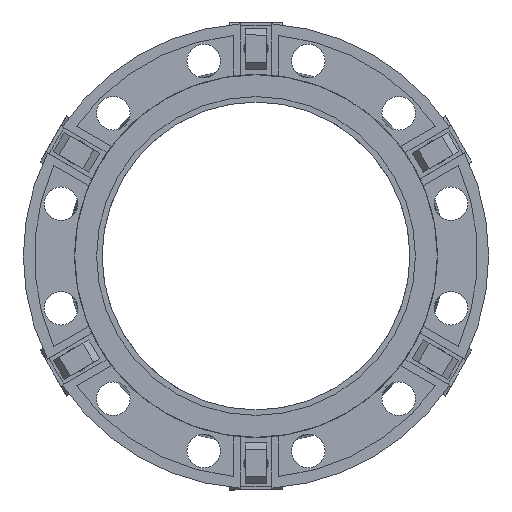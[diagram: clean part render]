
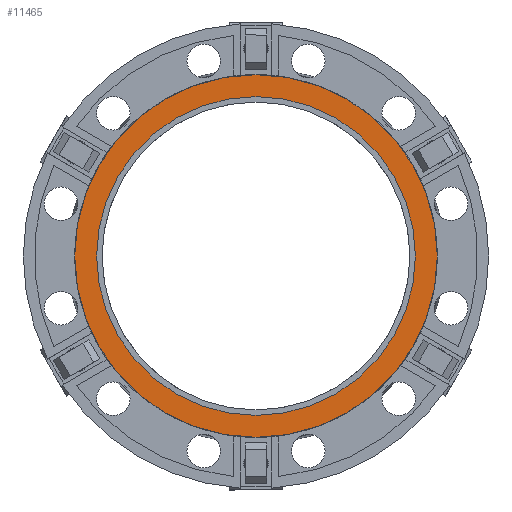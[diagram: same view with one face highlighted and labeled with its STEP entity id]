
A CAD part, front view. The second image highlights one B-rep face of the part: STEP entity #11465.
In plain terms, the highlighted planar face has unit normal (0, -1, 0).
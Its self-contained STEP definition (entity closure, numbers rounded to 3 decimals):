
#449 = DIRECTION ( 'NONE',  ( 0., 1., 0. ) ) ;
#793 = AXIS2_PLACEMENT_3D ( 'NONE', #2506, #9664, #9760 ) ;
#1103 = AXIS2_PLACEMENT_3D ( 'NONE', #7533, #449, #6061 ) ;
#1418 = CIRCLE ( 'NONE', #16423, 132.5 ) ;
#2506 = CARTESIAN_POINT ( 'NONE',  ( 0., -3., 0. ) ) ;
#2781 = ORIENTED_EDGE ( 'NONE', *, *, #17306, .T. ) ;
#3896 = DIRECTION ( 'NONE',  ( 0., 0., 1. ) ) ;
#4085 = VERTEX_POINT ( 'NONE', #7406 ) ;
#4590 = PLANE ( 'NONE',  #1103 ) ;
#5329 = CIRCLE ( 'NONE', #9436, 132.5 ) ;
#5475 = ORIENTED_EDGE ( 'NONE', *, *, #16607, .F. ) ;
#5658 = VERTEX_POINT ( 'NONE', #12728 ) ;
#6061 = DIRECTION ( 'NONE',  ( 0., 0., 1. ) ) ;
#6253 = CARTESIAN_POINT ( 'NONE',  ( 0., -3., 0. ) ) ;
#6328 = ORIENTED_EDGE ( 'NONE', *, *, #12705, .F. ) ;
#6454 = EDGE_LOOP ( 'NONE', ( #8663, #2781 ) ) ;
#6594 = CARTESIAN_POINT ( 'NONE',  ( 0., -3., 0. ) ) ;
#7406 = CARTESIAN_POINT ( 'NONE',  ( 0., -3., -132.5 ) ) ;
#7446 = FACE_OUTER_BOUND ( 'NONE', #14437, .T. ) ;
#7533 = CARTESIAN_POINT ( 'NONE',  ( 0., -3., 0. ) ) ;
#7991 = CIRCLE ( 'NONE', #13879, 116.5 ) ;
#8062 = DIRECTION ( 'NONE',  ( 0., 0., 1. ) ) ;
#8471 = DIRECTION ( 'NONE',  ( 0., 1., 0. ) ) ;
#8663 = ORIENTED_EDGE ( 'NONE', *, *, #8991, .T. ) ;
#8681 = CARTESIAN_POINT ( 'NONE',  ( 0., -3., 132.5 ) ) ;
#8991 = EDGE_CURVE ( 'Defeatured_0_338+Defeatured_0_410+Defeatured_0_410+Defeatured_0_410', #14871, #5658, #18134, .T. ) ;
#9436 = AXIS2_PLACEMENT_3D ( 'NONE', #15120, #8471, #3896 ) ;
#9664 = DIRECTION ( 'NONE',  ( 0., 1., 0. ) ) ;
#9760 = DIRECTION ( 'NONE',  ( 0., 0., 1. ) ) ;
#11465 = ADVANCED_FACE ( 'Defeatured_0_338', ( #14708, #7446 ), #4590, .F. ) ;
#11849 = DIRECTION ( 'NONE',  ( 0., 1., 0. ) ) ;
#12038 = DIRECTION ( 'NONE',  ( 0., 0., 1. ) ) ;
#12705 = EDGE_CURVE ( 'Defeatured_0_339+Defeatured_0_338+Defeatured_0_338+Defeatured_0_338', #4085, #13309, #1418, .T. ) ;
#12728 = CARTESIAN_POINT ( 'NONE',  ( 0., -3., 116.5 ) ) ;
#13309 = VERTEX_POINT ( 'NONE', #8681 ) ;
#13879 = AXIS2_PLACEMENT_3D ( 'NONE', #6594, #15061, #8062 ) ;
#14437 = EDGE_LOOP ( 'NONE', ( #6328, #5475 ) ) ;
#14708 = FACE_BOUND ( 'NONE', #6454, .T. ) ;
#14871 = VERTEX_POINT ( 'NONE', #16982 ) ;
#15061 = DIRECTION ( 'NONE',  ( 0., 1., 0. ) ) ;
#15120 = CARTESIAN_POINT ( 'NONE',  ( 0., -3., 0. ) ) ;
#16423 = AXIS2_PLACEMENT_3D ( 'NONE', #6253, #11849, #12038 ) ;
#16607 = EDGE_CURVE ( 'Defeatured_0_339+Defeatured_0_338+Defeatured_0_338+Defeatured_0_338', #13309, #4085, #5329, .T. ) ;
#16982 = CARTESIAN_POINT ( 'NONE',  ( 0., -3., -116.5 ) ) ;
#17306 = EDGE_CURVE ( 'Defeatured_0_338+Defeatured_0_410+Defeatured_0_410+Defeatured_0_410', #5658, #14871, #7991, .T. ) ;
#18134 = CIRCLE ( 'NONE', #793, 116.5 ) ;
